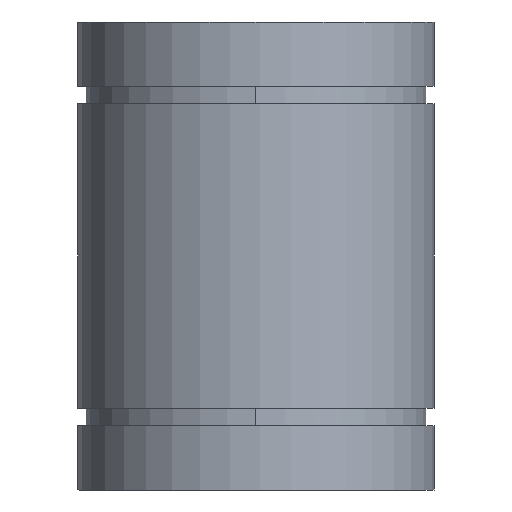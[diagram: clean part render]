
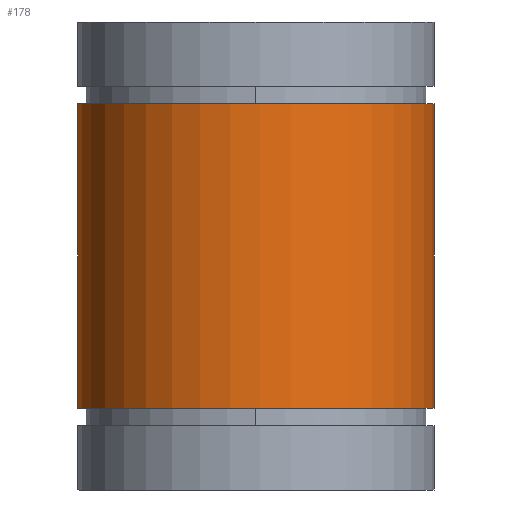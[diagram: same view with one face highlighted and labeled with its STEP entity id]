
A CAD part, front view. The second image highlights one B-rep face of the part: STEP entity #178.
In plain terms, the highlighted cylindrical face has radius 16 mm (diameter 32 mm), a partial arc.
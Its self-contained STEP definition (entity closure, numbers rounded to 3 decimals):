
#137=CARTESIAN_POINT('',(0.0,0.0,0.0));
#138=DIRECTION('',(0.0,0.0,1.0));
#139=DIRECTION('',(-1.0,0.0,0.0));
#140=AXIS2_PLACEMENT_3D('',#137,#138,#139);
#141=CYLINDRICAL_SURFACE('',#140,16.0);
#142=CARTESIAN_POINT('',(16.0,0.,34.65));
#143=VERTEX_POINT('',#142);
#144=CARTESIAN_POINT('',(16.0,0.,7.35));
#145=VERTEX_POINT('',#144);
#146=CARTESIAN_POINT('',(16.0,0.,34.65));
#147=DIRECTION('',(0.0,0.0,-1.0));
#148=VECTOR('',#147,27.3);
#149=LINE('',#146,#148);
#150=EDGE_CURVE('',#143,#145,#149,.T.);
#151=ORIENTED_EDGE('',*,*,#150,.F.);
#152=CARTESIAN_POINT('',(-15.982,-0.75,34.65));
#153=VERTEX_POINT('',#152);
#154=CARTESIAN_POINT('',(0.0,0.0,34.65));
#155=DIRECTION('',(0.0,0.0,-1.0));
#156=DIRECTION('',(-1.0,0.0,0.0));
#157=AXIS2_PLACEMENT_3D('',#154,#155,#156);
#158=CIRCLE('',#157,16.0);
#159=EDGE_CURVE('',#143,#153,#158,.T.);
#160=ORIENTED_EDGE('',*,*,#159,.T.);
#161=CARTESIAN_POINT('',(-15.982,-0.75,7.35));
#162=VERTEX_POINT('',#161);
#163=CARTESIAN_POINT('',(-15.982,-0.75,34.65));
#164=DIRECTION('',(0.0,0.0,-1.0));
#165=VECTOR('',#164,27.3);
#166=LINE('',#163,#165);
#167=EDGE_CURVE('',#153,#162,#166,.T.);
#168=ORIENTED_EDGE('',*,*,#167,.T.);
#169=CARTESIAN_POINT('',(0.0,0.0,7.35));
#170=DIRECTION('',(0.0,0.0,1.0));
#171=DIRECTION('',(-1.0,0.0,0.0));
#172=AXIS2_PLACEMENT_3D('',#169,#170,#171);
#173=CIRCLE('',#172,16.0);
#174=EDGE_CURVE('',#162,#145,#173,.T.);
#175=ORIENTED_EDGE('',*,*,#174,.T.);
#176=EDGE_LOOP('',(#151,#160,#168,#175));
#177=FACE_OUTER_BOUND('',#176,.T.);
#178=ADVANCED_FACE('',(#177),#141,.T.);
